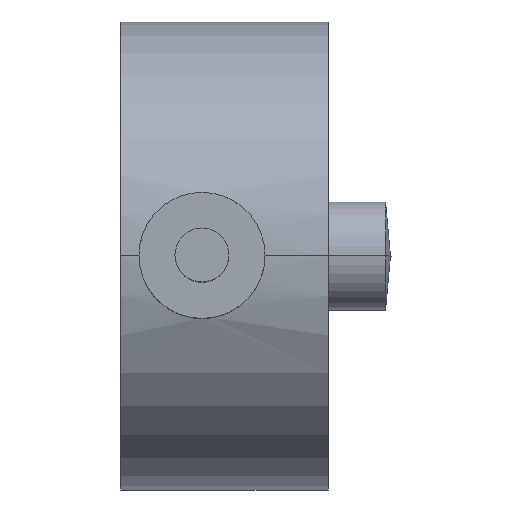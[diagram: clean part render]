
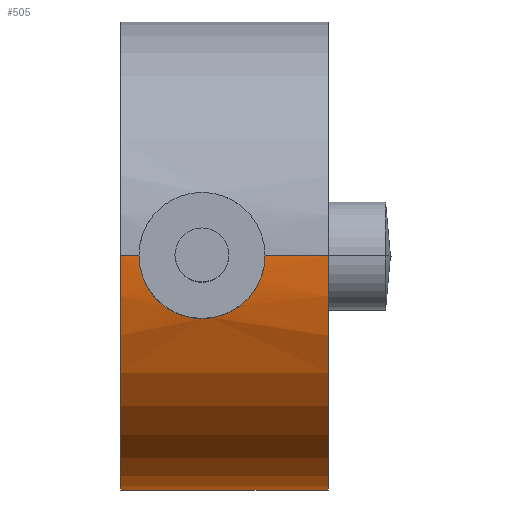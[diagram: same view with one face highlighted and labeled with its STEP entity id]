
A CAD part, top view. The second image highlights one B-rep face of the part: STEP entity #505.
In plain terms, the highlighted cylindrical face has radius 13 mm (diameter 26 mm), a partial arc.
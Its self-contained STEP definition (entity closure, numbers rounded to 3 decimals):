
#34=CARTESIAN_POINT('',(-4.5,0.,0.));
#35=DIRECTION('',(-1.,0.,0.));
#36=DIRECTION('',(0.,0.,-1.));
#37=AXIS2_PLACEMENT_3D('',#34,#35,#36);
#69=CARTESIAN_POINT('',(3.5,0.,13.));
#93=CARTESIAN_POINT('',(-3.5,0.,13.));
#105=CARTESIAN_POINT('',(0.,-3.5,12.52));
#106=CARTESIAN_POINT('',(0.203,-3.5,12.52));
#107=CARTESIAN_POINT('',(0.604,-3.465,12.53));
#108=CARTESIAN_POINT('',(1.2,-3.307,12.573));
#109=CARTESIAN_POINT('',(1.754,-3.049,12.639));
#110=CARTESIAN_POINT('',(2.261,-2.695,12.72));
#111=CARTESIAN_POINT('',(2.692,-2.265,12.804));
#112=CARTESIAN_POINT('',(3.047,-1.758,12.884));
#113=CARTESIAN_POINT('',(3.305,-1.204,12.948));
#114=CARTESIAN_POINT('',(3.465,-0.605,12.991));
#115=CARTESIAN_POINT('',(3.5,-0.203,13.));
#116=CARTESIAN_POINT('',(3.5,0.,13.));
#118=DIRECTION('',(-1.,0.,0.));
#119=VECTOR('',#118,3.5);
#120=CARTESIAN_POINT('',(7.,0.,13.));
#121=LINE('',#120,#119);
#122=CARTESIAN_POINT('',(7.,0.,0.));
#123=DIRECTION('',(-1.,0.,0.));
#124=DIRECTION('',(0.,0.,-1.));
#125=AXIS2_PLACEMENT_3D('',#122,#123,#124);
#127=DIRECTION('',(-1.,0.,0.));
#128=VECTOR('',#127,11.5);
#129=CARTESIAN_POINT('',(7.,0.,-13.));
#130=LINE('',#129,#128);
#131=DIRECTION('',(-1.,0.,0.));
#132=VECTOR('',#131,1.);
#133=CARTESIAN_POINT('',(-3.5,0.,13.));
#134=LINE('',#133,#132);
#135=CARTESIAN_POINT('',(-3.5,0.,13.));
#136=CARTESIAN_POINT('',(-3.5,-0.205,13.));
#137=CARTESIAN_POINT('',(-3.465,-0.61,
12.99));
#138=CARTESIAN_POINT('',(-3.302,-1.214,12.948));
#139=CARTESIAN_POINT('',(-3.042,-1.766,12.883));
#140=CARTESIAN_POINT('',(-2.688,-2.269,12.803));
#141=CARTESIAN_POINT('',(-2.261,-2.695,12.72));
#142=CARTESIAN_POINT('',(-1.758,-3.047,12.639));
#143=CARTESIAN_POINT('',(-1.207,-3.305,12.574));
#144=CARTESIAN_POINT('',(-0.606,-3.465,
12.53));
#145=CARTESIAN_POINT('',(-0.204,-3.5,12.52));
#146=CARTESIAN_POINT('',(0.,-3.5,12.52));
#315=CARTESIAN_POINT('',(7.,0.,-13.));
#316=CARTESIAN_POINT('',(-4.5,0.,-13.));
#317=VERTEX_POINT('',#315);
#318=VERTEX_POINT('',#316);
#327=CARTESIAN_POINT('',(7.,0.,13.));
#328=VERTEX_POINT('',#327);
#329=CARTESIAN_POINT('',(-4.5,0.,13.));
#330=VERTEX_POINT('',#329);
#373=VERTEX_POINT('',#69);
#375=VERTEX_POINT('',#93);
#376=VERTEX_POINT('',#105);
#489=CARTESIAN_POINT('',(-5.25,0.,0.));
#490=DIRECTION('',(1.,0.,0.));
#491=DIRECTION('',(0.,0.,1.));
#492=AXIS2_PLACEMENT_3D('',#489,#490,#491);
#493=CYLINDRICAL_SURFACE('',#492,13.);
#494=ORIENTED_EDGE('',*,*,#478,.T.);
#495=ORIENTED_EDGE('',*,*,#467,.F.);
#497=ORIENTED_EDGE('',*,*,#496,.F.);
#498=ORIENTED_EDGE('',*,*,#463,.T.);
#499=ORIENTED_EDGE('',*,*,#424,.T.);
#500=ORIENTED_EDGE('',*,*,#460,.F.);
#502=ORIENTED_EDGE('',*,*,#501,.T.);
#503=EDGE_LOOP('',(#494,#495,#497,#498,#499,#500,#502));
#504=FACE_OUTER_BOUND('',#503,.F.);
#505=ADVANCED_FACE('',(#504),#493,.T.);
#38=CIRCLE('',#37,13.);
#117=B_SPLINE_CURVE_WITH_KNOTS('',3,(#105,#106,#107,#108,#109,#110,#111,#112,
#113,#114,#115,#116),.UNSPECIFIED.,.F.,.F.,(4,1,1,1,1,1,1,1,1,4),(0.,
0.111,0.222,0.333,0.444,
0.556,0.667,0.778,0.889,1.),
.UNSPECIFIED.);
#126=CIRCLE('',#125,13.);
#147=B_SPLINE_CURVE_WITH_KNOTS('',3,(#135,#136,#137,#138,#139,#140,#141,#142,
#143,#144,#145,#146),.UNSPECIFIED.,.F.,.F.,(4,1,1,1,1,1,1,1,1,4),(0.,
0.111,0.222,0.333,0.444,
0.556,0.667,0.778,0.889,1.),
.UNSPECIFIED.);
#424=EDGE_CURVE('',#318,#330,#38,.T.);
#460=EDGE_CURVE('',#375,#330,#134,.T.);
#463=EDGE_CURVE('',#317,#318,#130,.T.);
#467=EDGE_CURVE('',#328,#373,#121,.T.);
#478=EDGE_CURVE('',#376,#373,#117,.T.);
#496=EDGE_CURVE('',#317,#328,#126,.T.);
#501=EDGE_CURVE('',#375,#376,#147,.T.);
